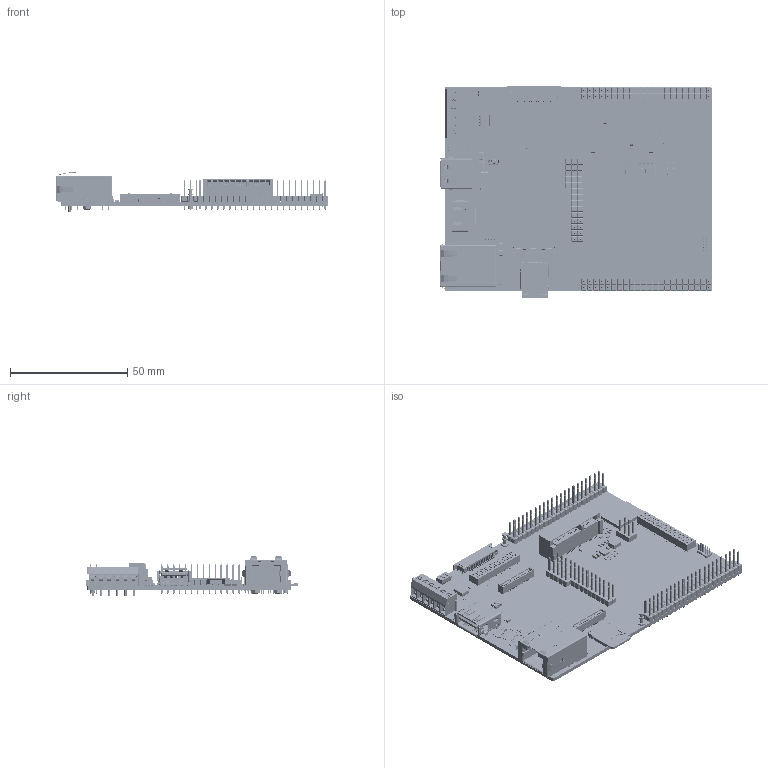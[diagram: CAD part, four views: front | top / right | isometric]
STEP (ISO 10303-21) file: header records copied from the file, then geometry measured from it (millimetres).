
FILE_DESCRIPTION(('Open CASCADE Model'),'2;1');
FILE_NAME('Open CASCADE Shape Model','2024-04-09T11:55:06',('Author'),( 'Open CASCADE'),'Open CASCADE STEP processor 7.5','Open CASCADE 7.5' ,'Unknown');
FILE_SCHEMA(('AUTOMOTIVE_DESIGN { 1 0 10303 214 1 1 1 1 }'));
Length unit declared in the file: millimetre
Products named in the file (142): PCB; Board; Open CASCADE STEP translator 7.5 1.1.1; R21; RES-0603; J17; pin4; J16; J7; 1502-2--3DModel-STEP-56544_RGB8421504; J6; R6; RES-0402; C26; CAP-0805; C25; C24; C23; R11; J5; keystone-PN3000TR; U1; 1854092646320; Open CASCADE STEP translator 6.8 78.1; Body; Open CASCADE STEP translator 6.8 78.2.1; Thermal_Shape; Pin_Shape; SW3; 218-4; SW2; 218-2_colors; 218-02-002; 218-40-002; 218 terminal lead frame002; 218 terminal lead frame; 218 terminal lead frame001; 218 terminal lead frame005; 218-56-003; SIM1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
Assembly tree (344 placements, depth 5):
  PCB
    Board
      Open CASCADE STEP translator 7.5 1.1.1
    R21
      RES-0603
    J17
      pin4  x5
    J16
      pin4  x28
    J7
      1502-2--3DModel-STEP-56544_RGB8421504
    J6
      1502-2--3DModel-STEP-56544_RGB8421504
    R6
      RES-0402
    C26
      CAP-0805
    C25
      CAP-0805
    C24
      CAP-0805
    C23
      CAP-0805
    R11
      RES-0603
    J5
      keystone-PN3000TR
    U1
      1854092646320
        Open CASCADE STEP translator 6.8 78.1
        Body
          Open CASCADE STEP translator 6.8 78.2.1
        Thermal_Shape
        Pin_Shape  x20
    SW3
      218-4
    SW2
      218-2_colors
        218-02-002
        218-40-002
        218 terminal lead frame002
          218 terminal lead frame
          218 terminal lead frame001
        218 terminal lead frame005
          218 terminal lead frame
          218 terminal lead frame001
        218-56-003  x2
    SIM1
      1854092643760
        Body
        Pins
    R20
      RES-0402
    R19
      RES-0402
    R18
      RES-0402
    R17
      RES-0402
    R12
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Bounding box: 116.03 x 90.13 x 17.08 mm (x, y, z)
Volume: 26836.8 mm3; surface area: 44485.2 mm2
Topology: 395 solids, 411 shells, 19005 faces, 50161 edges, 32445 vertices
Faces by surface type: plane 13522, cylinder 3773, bspline 1275, sphere 282, extrusion 65, torus 54, cone 34
Full cylindrical faces by diameter (mm): 0.42 x1, 0.5 x1, 0.6 x1, 0.8 x1, 1.194 x2, 2 x1, 2.05 x1
Entity records: 319648 total; most frequent: CARTESIAN_POINT 74878, ORIENTED_EDGE 49546, DIRECTION 43456, EDGE_CURVE 24785, VECTOR 17976, LINE 17911, VERTEX_POINT 16103, AXIS2_PLACEMENT_3D 12740
